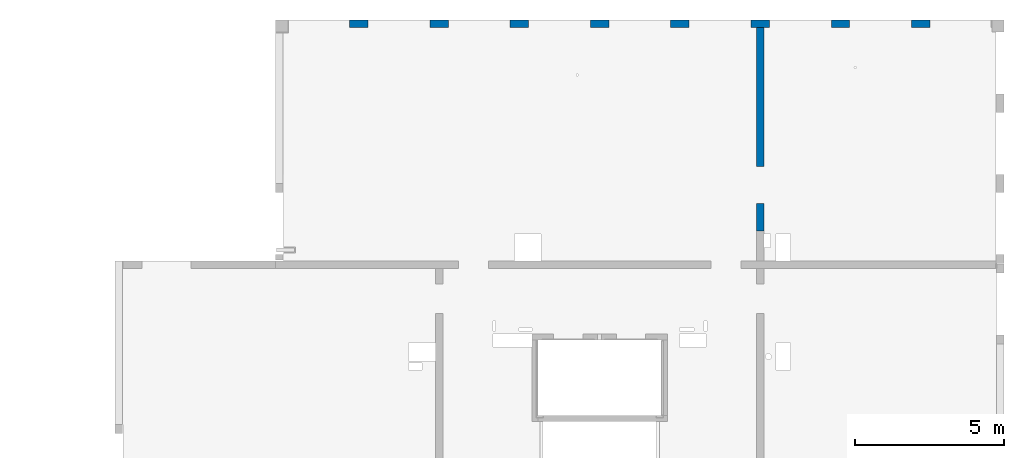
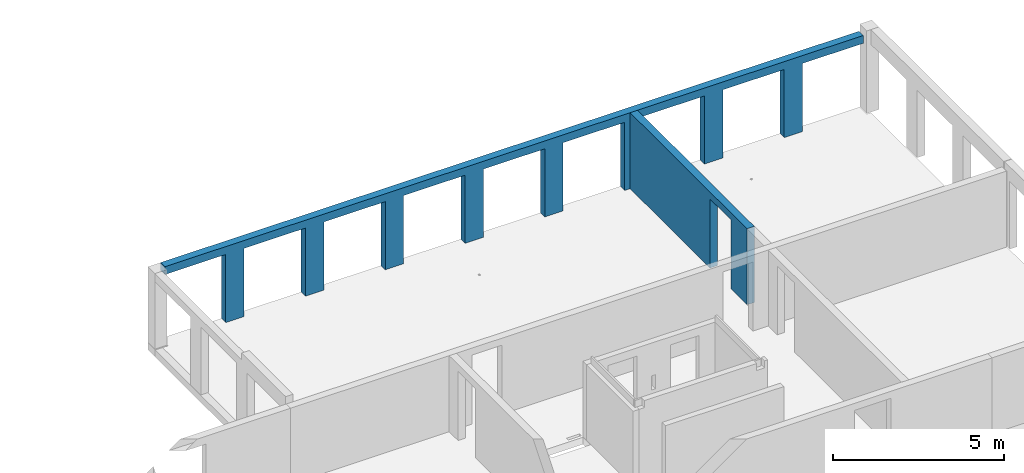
# One storey, part 7 of 12: 2 walls, 10 openings.
"""IFC2X3 building model written with IfcOpenShell, lengths in millimetres."""

from ifc_helpers import new_model, entity, si_unit, converted_unit, derived_unit, direction, frame, frame_2d, origin, origin_2d_with_axis, place, context, subcontext, project, spatial, rectangle, extrude, material, layer, layer_set, layer_usage, type_object, element, save


model = new_model("IFC2X3")

# Units and contexts
model_context = context("Model", 3, precision=0.01, world=origin(), true_north=direction((6.12303176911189e-17, 1.0)))
body_context = subcontext(model_context, "Body", "Model", "MODEL_VIEW")
ifc_project = project(units=[si_unit("LENGTHUNIT", "METRE", prefix="MILLI"), si_unit("AREAUNIT", "SQUARE_METRE"), si_unit("VOLUMEUNIT", "CUBIC_METRE"), converted_unit("PLANEANGLEUNIT", "DEGREE", entity("IfcRatioMeasure", 0.0174532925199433), si_unit("PLANEANGLEUNIT", "RADIAN"), dimensions=[0, 0, 0, 0, 0, 0, 0]), si_unit("MASSUNIT", "GRAM", prefix="KILO"), derived_unit("MASSDENSITYUNIT", [(si_unit("MASSUNIT", "GRAM", prefix="KILO"), 1), (si_unit("LENGTHUNIT", "METRE"), -3)]), si_unit("TIMEUNIT", "SECOND"), si_unit("FREQUENCYUNIT", "HERTZ"), si_unit("THERMODYNAMICTEMPERATUREUNIT", "DEGREE_CELSIUS"), derived_unit("THERMALTRANSMITTANCEUNIT", [(si_unit("MASSUNIT", "GRAM", prefix="KILO"), 1), (si_unit("THERMODYNAMICTEMPERATUREUNIT", "KELVIN"), -1), (si_unit("TIMEUNIT", "SECOND"), -3)]), derived_unit("VOLUMETRICFLOWRATEUNIT", [(si_unit("LENGTHUNIT", "METRE"), 3), (si_unit("TIMEUNIT", "SECOND"), -1)]), si_unit("ELECTRICCURRENTUNIT", "AMPERE"), si_unit("ELECTRICVOLTAGEUNIT", "VOLT"), si_unit("POWERUNIT", "WATT"), si_unit("FORCEUNIT", "NEWTON", prefix="KILO"), si_unit("ILLUMINANCEUNIT", "LUX"), si_unit("LUMINOUSFLUXUNIT", "LUMEN"), si_unit("LUMINOUSINTENSITYUNIT", "CANDELA"), derived_unit("USERDEFINED", [(si_unit("MASSUNIT", "GRAM", prefix="KILO"), -1), (si_unit("LENGTHUNIT", "METRE"), -2), (si_unit("TIMEUNIT", "SECOND"), 3), (si_unit("LUMINOUSFLUXUNIT", "LUMEN"), 1)]), derived_unit("LINEARVELOCITYUNIT", [(si_unit("LENGTHUNIT", "METRE"), 1), (si_unit("TIMEUNIT", "SECOND"), -1)]), si_unit("PRESSUREUNIT", "PASCAL"), derived_unit("USERDEFINED", [(si_unit("LENGTHUNIT", "METRE"), -2), (si_unit("MASSUNIT", "GRAM", prefix="KILO"), 1), (si_unit("TIMEUNIT", "SECOND"), -2)])], contexts=[model_context])

# Site, building, storey
site_placement = place(None, origin())
site = spatial("IfcSite", under=ifc_project, at=site_placement, Name="Default", CompositionType="ELEMENT")
building_placement = place(site_placement, origin())
building = spatial("IfcBuilding", under=site, at=building_placement, Name="niet gebruiken", CompositionType="ELEMENT")
storey_placement = place(building_placement, frame((0.0, 0.0, 18540.0)))
storey = spatial("IfcBuildingStorey", under=building, at=storey_placement, Name="06 zesde verdieping", CompositionType="ELEMENT", Elevation=18540.0)

# Wall, opening
ifc_material = material(Name="NLRS_f2_beton ihwg")
ifc_layer_1 = layer(ifc_material, 250.0)
ifc_layer_set_1 = layer_set([ifc_layer_1], Name="Basic Wall:NLRS_22.21_WA_beton ihwg d=250_gen")
ifc_layer_usage_1 = layer_usage(ifc_layer_set_1, "AXIS2", "NEGATIVE", 125.0)
wall_type_1 = type_object("IfcWallType", Name="Basic Wall:NLRS_22.21_WA_beton ihwg d=250_gen", PredefinedType="STANDARD", material=ifc_layer_set_1)
wall_1_placement = place(storey_placement, frame((97200.0, 53006.0, -90.0), z_axis=(0.0, 0.0, 1.0), x_axis=(0.0, -1.0, 0.0)))
wall_1 = element("IfcWallStandardCase", 1, at=wall_1_placement, inside=storey, type_object=wall_type_1, material=ifc_layer_usage_1, Name="Basic Wall:NLRS_22.21_WA_beton ihwg d=250_gen", ObjectType="Basic Wall:NLRS_22.21_WA_beton ihwg d=250_gen", context=body_context, shape_type="SweptSolid", body=[
    extrude(rectangle(XDim=6850.00000000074, YDim=250.000000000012, at=frame_2d((3425.00000000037, -1.10134124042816e-12), x_axis=(-1.0, 0.0))), origin(), (0.0, 0.0, 1.0), 2719.99999999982),
])
opening_1_placement = place(wall_1_placement, origin())
element("IfcOpeningElement", 2, at=opening_1_placement, cuts=wall_1, Name="Basic Wall:NLRS_22.21_WA_beton ihwg d=250_gen", ObjectType="Opening", context=body_context, shape_type="SweptSolid", body=[
    extrude(rectangle(XDim=2470.0, YDim=1240.0, at=origin_2d_with_axis()), frame((5300.0, -1649.0, 1235.0), z_axis=(0.0, 1.0, 0.0), x_axis=(0.0, 0.0, 1.0)), (0.0, 0.0, 1.0), 3048.0),
])

# Wall, openings
ifc_layer_2 = layer(ifc_material, 250.0)
ifc_layer_set_2 = layer_set([ifc_layer_2], Name="Basic Wall:NLRS_21.21_WA_beton ihwg d=250_gen")
ifc_layer_usage_2 = layer_usage(ifc_layer_set_2, "AXIS2", "NEGATIVE", 125.0)
wall_type_2 = type_object("IfcWallType", Name="Basic Wall:NLRS_21.21_WA_beton ihwg d=250_gen", PredefinedType="STANDARD", material=ifc_layer_set_2)
wall_2_placement = place(storey_placement, frame((104970.0, 53131.0, -90.0), z_axis=(0.0, 0.0, 1.0), x_axis=(-1.0, 0.0, 0.0)))
wall_2 = element("IfcWallStandardCase", 3, at=wall_2_placement, inside=storey, type_object=wall_type_2, material=ifc_layer_usage_2, Name="Basic Wall:NLRS_21.21_WA_beton ihwg d=250_gen", ObjectType="Basic Wall:NLRS_21.21_WA_beton ihwg d=250_gen", context=body_context, shape_type="SweptSolid", body=[
    extrude(rectangle(XDim=23640.0000000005, YDim=249.999999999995, at=frame_2d((11820.0000000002, 5.82645043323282e-13), x_axis=(-1.0, 0.0))), origin(), (0.0, 0.0, 1.0), 2720.0),
])
opening_2_placement = place(wall_2_placement, origin())
element("IfcOpeningElement", 4, at=opening_2_placement, cuts=wall_2, Name="Basic Wall:NLRS_21.21_WA_beton ihwg d=250_gen", ObjectType="Opening", context=body_context, shape_type="SweptSolid", body=[
    extrude(rectangle(XDim=2440.0, YDim=2080.0, at=frame_2d((-8.64019966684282e-12, -2.1600499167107e-12), x_axis=(0.0, 1.0))), frame((22620.0, -1399.0, 1220.0), z_axis=(0.0, 1.0, 0.0), x_axis=(-1.0, 0.0, 0.0)), (0.0, 0.0, 1.0), 3048.0),
])
opening_3_placement = place(wall_2_placement, origin())
element("IfcOpeningElement", 5, at=opening_3_placement, cuts=wall_2, Name="Basic Wall:NLRS_21.21_WA_beton ihwg d=250_gen", ObjectType="Opening", context=body_context, shape_type="SweptSolid", body=[
    extrude(rectangle(XDim=2440.0, YDim=2080.0, at=frame_2d((-8.64019966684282e-12, 0.0), x_axis=(0.0, 1.0))), frame((19920.0, -1399.0, 1220.0), z_axis=(0.0, 1.0, 0.0), x_axis=(-1.0, 0.0, 0.0)), (0.0, 0.0, 1.0), 3048.0),
])
opening_4_placement = place(wall_2_placement, origin())
element("IfcOpeningElement", 6, at=opening_4_placement, cuts=wall_2, Name="Basic Wall:NLRS_21.21_WA_beton ihwg d=250_gen", ObjectType="Opening", context=body_context, shape_type="SweptSolid", body=[
    extrude(rectangle(XDim=2440.0, YDim=2080.0, at=frame_2d((-8.64019966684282e-12, -2.1600499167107e-12), x_axis=(0.0, 1.0))), frame((17220.0, -1399.0, 1220.0), z_axis=(0.0, 1.0, 0.0), x_axis=(-1.0, 0.0, 0.0)), (0.0, 0.0, 1.0), 3048.0),
])
opening_5_placement = place(wall_2_placement, origin())
element("IfcOpeningElement", 7, at=opening_5_placement, cuts=wall_2, Name="Basic Wall:NLRS_21.21_WA_beton ihwg d=250_gen", ObjectType="Opening", context=body_context, shape_type="SweptSolid", body=[
    extrude(rectangle(XDim=2440.0, YDim=2080.0, at=frame_2d((8.64019966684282e-12, 0.0), x_axis=(0.0, 1.0))), frame((14520.0, -1399.0, 1220.0), z_axis=(0.0, 1.0, 0.0), x_axis=(-1.0, 0.0, 0.0)), (0.0, 0.0, 1.0), 3048.0),
])
opening_6_placement = place(wall_2_placement, origin())
element("IfcOpeningElement", 8, at=opening_6_placement, cuts=wall_2, Name="Basic Wall:NLRS_21.21_WA_beton ihwg d=250_gen", ObjectType="Opening", context=body_context, shape_type="SweptSolid", body=[
    extrude(rectangle(XDim=2440.0, YDim=2080.0, at=frame_2d((-8.64019966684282e-12, -2.1600499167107e-12), x_axis=(0.0, 1.0))), frame((11820.0, -1399.0, 1220.0), z_axis=(0.0, 1.0, 0.0), x_axis=(-1.0, 0.0, 0.0)), (0.0, 0.0, 1.0), 3048.0),
])
opening_7_placement = place(wall_2_placement, origin())
element("IfcOpeningElement", 9, at=opening_7_placement, cuts=wall_2, Name="Basic Wall:NLRS_21.21_WA_beton ihwg d=250_gen", ObjectType="Opening", context=body_context, shape_type="SweptSolid", body=[
    extrude(rectangle(XDim=2440.0, YDim=2080.0, at=frame_2d((-8.64019966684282e-12, 0.0), x_axis=(0.0, 1.0))), frame((9120.0, -1399.0, 1220.0), z_axis=(0.0, 1.0, 0.0), x_axis=(-1.0, 0.0, 0.0)), (0.0, 0.0, 1.0), 3048.0),
])
opening_8_placement = place(wall_2_placement, origin())
element("IfcOpeningElement", 10, at=opening_8_placement, cuts=wall_2, Name="Basic Wall:NLRS_21.21_WA_beton ihwg d=250_gen", ObjectType="Opening", context=body_context, shape_type="SweptSolid", body=[
    extrude(rectangle(XDim=2440.0, YDim=2080.0, at=frame_2d((8.64019966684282e-12, -2.1600499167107e-12), x_axis=(0.0, 1.0))), frame((6420.0, -1399.0, 1220.0), z_axis=(0.0, 1.0, 0.0), x_axis=(-1.0, 0.0, 0.0)), (0.0, 0.0, 1.0), 3048.0),
])
opening_9_placement = place(wall_2_placement, origin())
element("IfcOpeningElement", 11, at=opening_9_placement, cuts=wall_2, Name="Basic Wall:NLRS_21.21_WA_beton ihwg d=250_gen", ObjectType="Opening", context=body_context, shape_type="SweptSolid", body=[
    extrude(rectangle(XDim=2440.0, YDim=2080.0, at=frame_2d((8.64019966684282e-12, 0.0), x_axis=(0.0, 1.0))), frame((3720.0, -1399.0, 1220.0), z_axis=(0.0, 1.0, 0.0), x_axis=(-1.0, 0.0, 0.0)), (0.0, 0.0, 1.0), 3048.0),
])
opening_10_placement = place(wall_2_placement, origin())
element("IfcOpeningElement", 12, at=opening_10_placement, cuts=wall_2, Name="Basic Wall:NLRS_21.21_WA_beton ihwg d=250_gen", ObjectType="Opening", context=body_context, shape_type="SweptSolid", body=[
    extrude(rectangle(XDim=2440.0, YDim=2080.0, at=frame_2d((-8.64019966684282e-12, -2.1600499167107e-12), x_axis=(0.0, 1.0))), frame((1020.0, -1399.0, 1220.0), z_axis=(0.0, 1.0, 0.0), x_axis=(-1.0, 0.0, 0.0)), (0.0, 0.0, 1.0), 3048.0),
])

save(model, "model.ifc")
